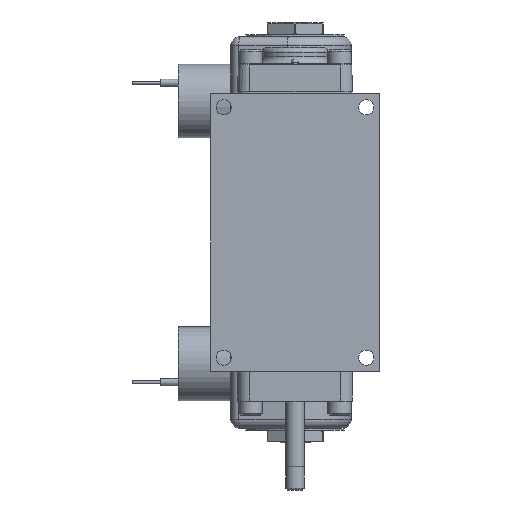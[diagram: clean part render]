
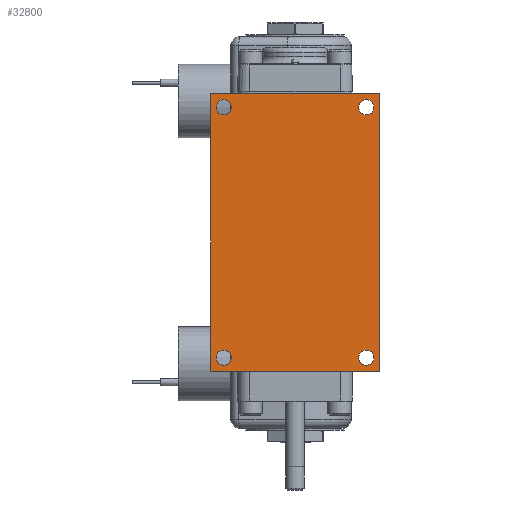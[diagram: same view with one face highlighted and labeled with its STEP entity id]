
A CAD part, front view. The second image highlights one B-rep face of the part: STEP entity #32800.
In plain terms, the highlighted planar face has unit normal (0, -1, 0).
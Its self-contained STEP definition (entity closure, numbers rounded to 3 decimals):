
#1153=FACE_BOUND('',#9311,.T.);
#1154=FACE_BOUND('',#9312,.T.);
#1155=FACE_BOUND('',#9313,.T.);
#1156=FACE_BOUND('',#9314,.T.);
#2607=LINE('',#52938,#4901);
#2608=LINE('',#52940,#4902);
#2609=LINE('',#52942,#4903);
#2610=LINE('',#52943,#4904);
#4901=VECTOR('',#40626,1.);
#4902=VECTOR('',#40627,1.);
#4903=VECTOR('',#40628,1.);
#4904=VECTOR('',#40629,1.);
#7317=FACE_OUTER_BOUND('',#9310,.T.);
#9310=EDGE_LOOP('',(#23273,#23274,#23275,#23276));
#9311=EDGE_LOOP('',(#23277));
#9312=EDGE_LOOP('',(#23278));
#9313=EDGE_LOOP('',(#23279));
#9314=EDGE_LOOP('',(#23280));
#11298=CIRCLE('',#35223,0.258);
#11299=CIRCLE('',#35224,0.258);
#11300=CIRCLE('',#35225,0.258);
#11301=CIRCLE('',#35226,0.258);
#13501=VERTEX_POINT('',#52936);
#13502=VERTEX_POINT('',#52937);
#13503=VERTEX_POINT('',#52939);
#13504=VERTEX_POINT('',#52941);
#13505=VERTEX_POINT('',#52944);
#13506=VERTEX_POINT('',#52946);
#13507=VERTEX_POINT('',#52948);
#13508=VERTEX_POINT('',#52950);
#17120=EDGE_CURVE('',#13501,#13502,#2607,.T.);
#17121=EDGE_CURVE('',#13503,#13501,#2608,.T.);
#17122=EDGE_CURVE('',#13504,#13503,#2609,.T.);
#17123=EDGE_CURVE('',#13502,#13504,#2610,.T.);
#17124=EDGE_CURVE('',#13505,#13505,#11298,.T.);
#17125=EDGE_CURVE('',#13506,#13506,#11299,.T.);
#17126=EDGE_CURVE('',#13507,#13507,#11300,.T.);
#17127=EDGE_CURVE('',#13508,#13508,#11301,.T.);
#23273=ORIENTED_EDGE('',*,*,#17120,.F.);
#23274=ORIENTED_EDGE('',*,*,#17121,.F.);
#23275=ORIENTED_EDGE('',*,*,#17122,.F.);
#23276=ORIENTED_EDGE('',*,*,#17123,.F.);
#23277=ORIENTED_EDGE('',*,*,#17124,.T.);
#23278=ORIENTED_EDGE('',*,*,#17125,.T.);
#23279=ORIENTED_EDGE('',*,*,#17126,.T.);
#23280=ORIENTED_EDGE('',*,*,#17127,.T.);
#30071=PLANE('',#35222);
#32800=ADVANCED_FACE('',(#7317,#1153,#1154,#1155,#1156),#30071,.F.);
#35222=AXIS2_PLACEMENT_3D('',#52935,#40624,#40625);
#35223=AXIS2_PLACEMENT_3D('',#52945,#40630,#40631);
#35224=AXIS2_PLACEMENT_3D('',#52947,#40632,#40633);
#35225=AXIS2_PLACEMENT_3D('',#52949,#40634,#40635);
#35226=AXIS2_PLACEMENT_3D('',#52951,#40636,#40637);
#40624=DIRECTION('center_axis',(0.,1.,0.));
#40625=DIRECTION('ref_axis',(0.,0.,1.));
#40626=DIRECTION('',(0.,0.,1.));
#40627=DIRECTION('',(-1.,0.,0.));
#40628=DIRECTION('',(0.,0.,-1.));
#40629=DIRECTION('',(1.,0.,0.));
#40630=DIRECTION('center_axis',(0.,1.,0.));
#40631=DIRECTION('ref_axis',(-1.,0.,0.));
#40632=DIRECTION('center_axis',(0.,1.,0.));
#40633=DIRECTION('ref_axis',(-1.,0.,0.));
#40634=DIRECTION('center_axis',(0.,1.,0.));
#40635=DIRECTION('ref_axis',(-1.,0.,0.));
#40636=DIRECTION('center_axis',(0.,1.,0.));
#40637=DIRECTION('ref_axis',(-1.,0.,0.));
#52935=CARTESIAN_POINT('Origin',(0.,-1.636,0.));
#52936=CARTESIAN_POINT('',(-2.858,-1.636,-4.71));
#52937=CARTESIAN_POINT('',(-2.858,-1.636,4.71));
#52938=CARTESIAN_POINT('',(-2.858,-1.636,-4.71));
#52939=CARTESIAN_POINT('',(2.858,-1.636,-4.71));
#52940=CARTESIAN_POINT('',(2.858,-1.636,-4.71));
#52941=CARTESIAN_POINT('',(2.858,-1.636,4.71));
#52942=CARTESIAN_POINT('',(2.858,-1.636,4.71));
#52943=CARTESIAN_POINT('',(-2.858,-1.636,4.71));
#52944=CARTESIAN_POINT('',(-2.163,-1.636,-4.247));
#52945=CARTESIAN_POINT('Origin',(-2.421,-1.636,-4.247));
#52946=CARTESIAN_POINT('',(-2.163,-1.636,4.247));
#52947=CARTESIAN_POINT('Origin',(-2.421,-1.636,4.247));
#52948=CARTESIAN_POINT('',(2.678,-1.636,-4.247));
#52949=CARTESIAN_POINT('Origin',(2.421,-1.636,-4.247));
#52950=CARTESIAN_POINT('',(2.678,-1.636,4.247));
#52951=CARTESIAN_POINT('Origin',(2.421,-1.636,4.247));
